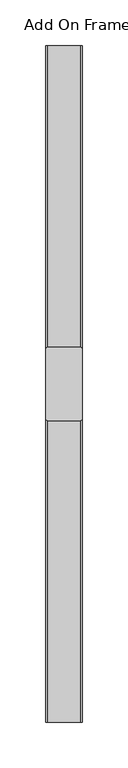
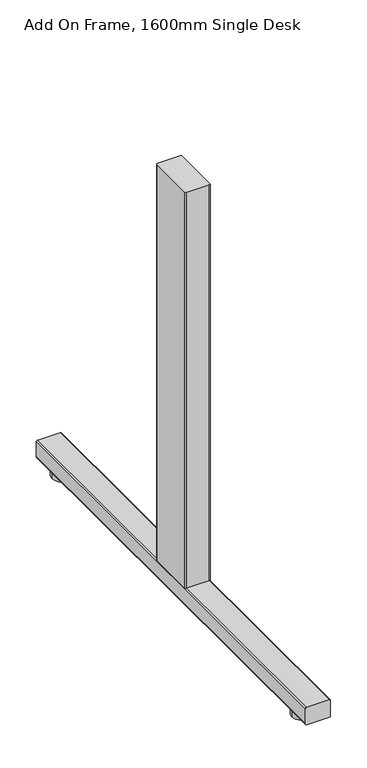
"""IFC4 building model written with IfcOpenShell, lengths in millimetres: furniture geometry, DBLTD_TheSenatorGroup_OffcDsks_Workbase_Single_AddOnFrame : Add On Frame, 1600mm Single Desk."""

from ifc_helpers import new_model, si_unit, point, frame, frame_2d, origin, origin_with_axes, place, context, project, spatial, polyline, circle_curve, trimmed, segment, composite_curve, outline, extrude, source, transform, mapped, element, save


def add_on_frame_1600mm_single_desk_d9639cad(model_context):
    return source(origin(), model_context, "Body", "SweptSolid", [
        extrude(outline(composite_curve([segment(trimmed(circle_curve(frame_2d((877.4999619, 1155.0399498)), 18.0), [point((859.4999619, 1155.0399498))], [point((895.4999619, 1155.0399498))], False, "CARTESIAN"), True, "CONTINUOUS"), segment(trimmed(circle_curve(frame_2d((877.4999619, 1155.0399498)), 18.0), [point((895.4999619, 1155.0399498))], [point((859.4999619, 1155.0399498))], False, "CARTESIAN"), True, "CONTINUOUS")], self_intersect=False)), origin_with_axes(), (0.0, 0.0, 1.0), 10.4220208),
        extrude(outline(composite_curve([segment(trimmed(circle_curve(frame_2d((877.4999619, 495.1603981)), 18.0), [point((859.4999619, 495.1603981))], [point((895.4999619, 495.1603981))], False, "CARTESIAN"), True, "CONTINUOUS"), segment(trimmed(circle_curve(frame_2d((877.4999619, 495.1603981)), 18.0), [point((895.4999619, 495.1603981))], [point((859.4999619, 495.1603981))], False, "CARTESIAN"), True, "CONTINUOUS")], self_intersect=False)), origin_with_axes(), (0.0, 0.0, 1.0), 10.4220208),
        extrude(outline(composite_curve([segment(trimmed(circle_curve(frame_2d((37.9999905, 859.4999237)), 2.0), [point((39.9999905, 859.4999237))], [point((37.9999905, 857.4999237))], False, "CARTESIAN"), True, "CONTINUOUS"), segment(polyline([(37.9999905, 857.4999237), (13.0000074, 857.4999237)]), True, "CONTINUOUS"), segment(trimmed(circle_curve(frame_2d((13.0000074, 859.4999237)), 2.0), [point((13.0000074, 857.4999237))], [point((11.0000074, 859.4999237))], False, "CARTESIAN"), True, "CONTINUOUS"), segment(polyline([(11.0000074, 859.4999237), (11.0000074, 895.5)]), True, "CONTINUOUS"), segment(trimmed(circle_curve(frame_2d((13.0000074, 895.5)), 2.0), [point((11.0000074, 895.5))], [point((13.0000074, 897.5))], False, "CARTESIAN"), True, "CONTINUOUS"), segment(polyline([(13.0000074, 897.5), (37.9999905, 897.5)]), True, "CONTINUOUS"), segment(trimmed(circle_curve(frame_2d((37.9999905, 895.5)), 2.0), [point((37.9999905, 897.5))], [point((39.9999905, 895.5))], False, "CARTESIAN"), True, "CONTINUOUS"), segment(polyline([(39.9999905, 895.5), (39.9999905, 859.4999237)]), True, "CONTINUOUS")], self_intersect=False)), frame((0.0, 455.0639343, 0.0), z_axis=(0.0, 1.0, 0.0), x_axis=(0.0, 0.0, 1.0)), (0.0, 0.0, 1.0), 740.0724792),
        extrude(outline(composite_curve([segment(polyline([(897.5, 863.1001596), (897.5, 787.1001596)]), True, "CONTINUOUS"), segment(trimmed(circle_curve(frame_2d((895.5, 787.1001596)), 2.0), [point((897.5, 787.1001596))], [point((895.5, 785.1001596))], False, "CARTESIAN"), True, "CONTINUOUS"), segment(polyline([(895.5, 785.1001596), (859.5233383, 785.1001596)]), True, "CONTINUOUS"), segment(trimmed(circle_curve(frame_2d((859.5233383, 787.1001596)), 2.0), [point((859.5233383, 785.1001596))], [point((857.5233383, 787.1001596))], False, "CARTESIAN"), True, "CONTINUOUS"), segment(polyline([(857.5233383, 787.1001596), (857.5233383, 863.1001596)]), True, "CONTINUOUS"), segment(trimmed(circle_curve(frame_2d((859.5233383, 863.1001596)), 2.0), [point((857.5233383, 863.1001596))], [point((859.5233383, 865.1001596))], False, "CARTESIAN"), True, "CONTINUOUS"), segment(polyline([(859.5233383, 865.1001596), (895.5, 865.1001596)]), True, "CONTINUOUS"), segment(trimmed(circle_curve(frame_2d((895.5, 863.1001596)), 2.0), [point((895.5, 865.1001596))], [point((897.5, 863.1001596))], False, "CARTESIAN"), True, "CONTINUOUS")], self_intersect=False)), frame((0.0, 0.0, 37.5740814), z_axis=(0.0, 0.0, 1.0), x_axis=(1.0, 0.0, 0.0)), (0.0, 0.0, 1.0), 667.4258423),
    ])


if __name__ == "__main__":
    model = new_model("IFC4")
    model_context = context("Model", 3, world=origin())
    ifc_project = project(units=[si_unit("LENGTHUNIT", "METRE", prefix="MILLI")], contexts=[model_context])
    site = spatial("IfcSite", under=ifc_project)
    building = spatial("IfcBuilding", under=site)
    placement = place(None, origin())
    add_on_frame_1600mm_single_desk_shape = add_on_frame_1600mm_single_desk_d9639cad(model_context)
    element("IfcFurniture", 1, ObjectType="DBLTD_TheSenatorGroup_OffcDsks_Workbase_Single_AddOnFrame : Add On Frame, 1600mm Single Desk", at=placement, inside=building, context=model_context, shape_type="MappedRepresentation", body=[
        mapped(add_on_frame_1600mm_single_desk_shape, transform((0.0, 0.0, 0.0), x_axis=(1.0, 0.0, 0.0), y_axis=(0.0, 1.0, 0.0), z_axis=(0.0, 0.0, 1.0))),
    ])
    save(model, "model.ifc")
